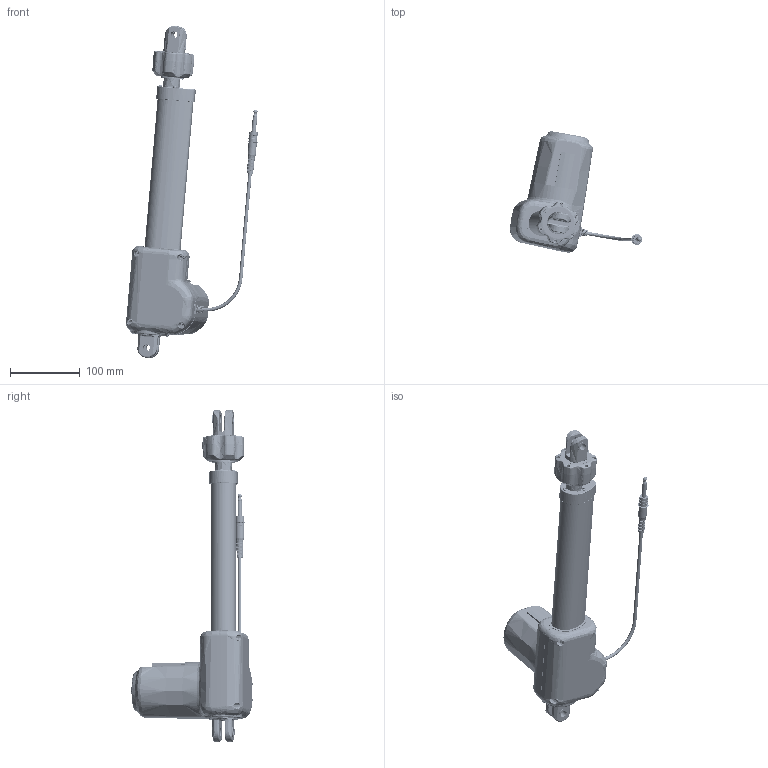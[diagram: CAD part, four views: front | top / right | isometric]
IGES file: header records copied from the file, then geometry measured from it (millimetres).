
Start section: SolidWorks IGES file using analytic representation for surfaces
Global section: file name: C:\Users\USER\Desktop\MD60-MR3.IGS; native system: SolidWorks 2020; preprocessor: SolidWorks 2020; author: USER; date: 241007.143430; units: millimetre
Bounding box: 189.33 x 173.33 x 475.09 mm (x, y, z)
Surface area: 375487 mm2 (no closed solid volume)
Topology: 0 solids, 0 shells, 2623 faces, 28087 edges, 28003 vertices
Faces by surface type: bspline 1380, revolution 1243
